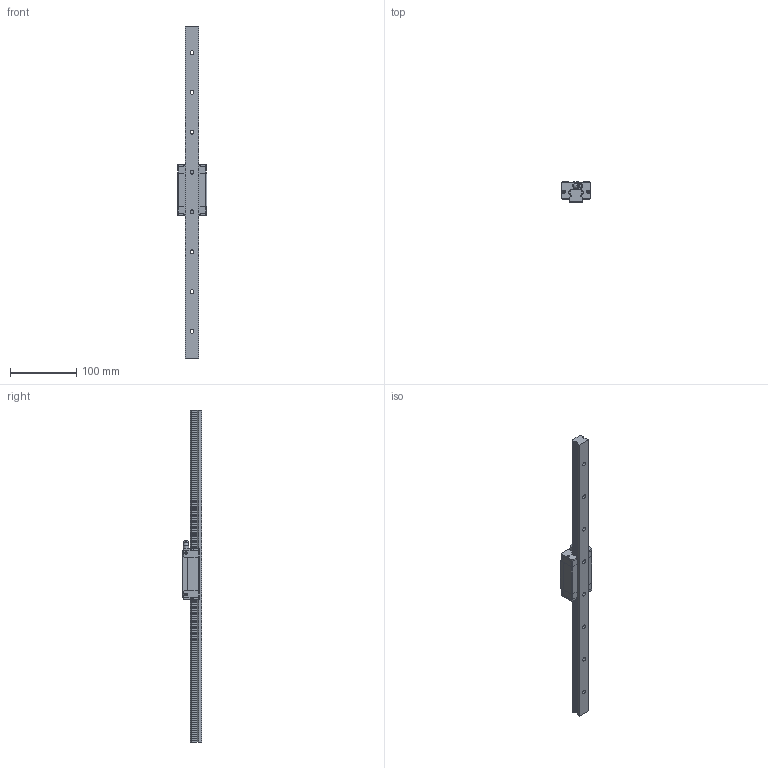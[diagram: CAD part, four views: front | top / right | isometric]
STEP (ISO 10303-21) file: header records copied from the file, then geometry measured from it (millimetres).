
FILE_DESCRIPTION(/* description */ ('STEP AP203'),/* implementation_level */ '2;1');
FILE_NAME(/* name */ 'D:\FOLDER Tomasz Michałek\pliki z pulpitu\Katalogi inne\Technika liniowa\NATECH\Modele 3D\NATECH linear block 3D drawing\NGH\NGH20CA\NGH20CA1R500.stp',/* time_stamp */ '2021-01-21T17:05:16+01:00',/* author */ ('dnia_tomasz_tm'),/* organization */ ('IT'),/* preprocessor_version */ 'ST-DEVELOPER v16.13',/* originating_system */ 'Autodesk Inventor 2018',/* authorisation */ '');
FILE_SCHEMA (('AUTOMOTIVE_DESIGN { 1 0 10303 214 3 1 1 }'));
Length unit declared in the file: millimetre
Products named in the file (3): NGH20CA1R500ZACI; GHH20CA1R500ZACI_1_GHH20CA; GHH20CA1R500ZACI_2_GHH20CA
Assembly tree (2 placements, depth 2):
  NGH20CA1R500ZACI
    GHH20CA1R500ZACI_1_GHH20CA
    GHH20CA1R500ZACI_2_GHH20CA
Bounding box: 44 x 30 x 500 mm (x, y, z)
Volume: 215802 mm3; surface area: 64177.1 mm2
Topology: 7 solids, 7 shells, 435 faces, 1134 edges, 747 vertices
Faces by surface type: plane 327, cylinder 70, cone 23, torus 9, sphere 5, bspline 1
Full cylindrical faces by diameter (mm): 0.531 x4, 3.414 x4, 3.93 x6, 4 x4, 4.5 x1, 5 x4, 6 x8, 8 x1, 9.5 x8
Entity records: 12988 total; most frequent: CARTESIAN_POINT 2347, ORIENTED_EDGE 2138, DIRECTION 2132, EDGE_CURVE 1069, LINE 810, VECTOR 810, VERTEX_POINT 738, AXIS2_PLACEMENT_3D 661
